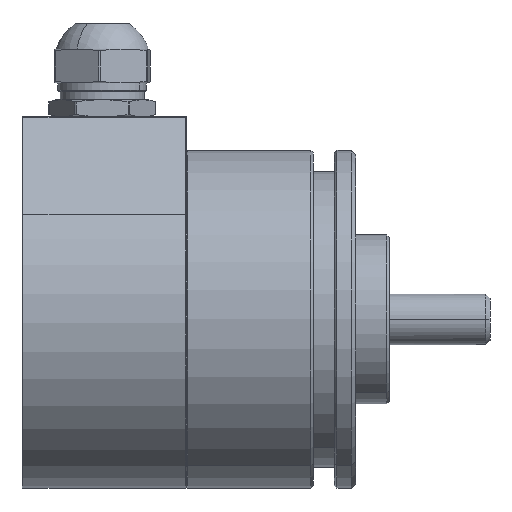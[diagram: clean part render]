
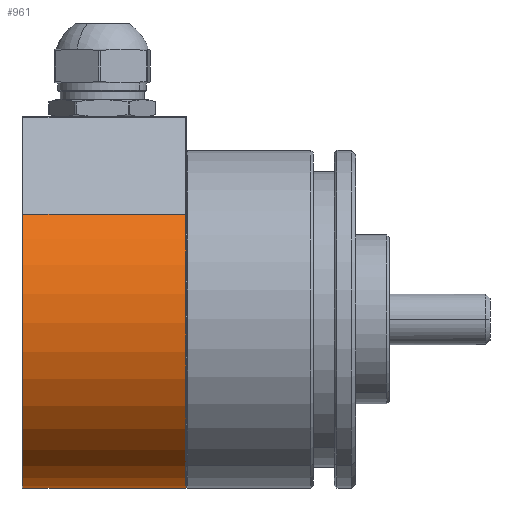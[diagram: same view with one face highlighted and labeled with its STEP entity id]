
A CAD part, left-side view. The second image highlights one B-rep face of the part: STEP entity #961.
In plain terms, the highlighted cylindrical face has radius 20 mm (diameter 40 mm), a partial arc.
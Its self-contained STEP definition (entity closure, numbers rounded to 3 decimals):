
#902 = DIRECTION ( 'NONE',  ( 0., 0., -1. ) ) ;
#961 = ADVANCED_FACE ( 'NONE', ( #8091 ), #3466, .T. ) ;
#1440 = ORIENTED_EDGE ( 'NONE', *, *, #4546, .T. ) ;
#1511 = CIRCLE ( 'NONE', #7691, 20. ) ;
#1624 = EDGE_CURVE ( 'NONE', #2320, #8059, #1511, .T. ) ;
#1759 = CARTESIAN_POINT ( 'NONE',  ( 0., 0., 0. ) ) ;
#1847 = DIRECTION ( 'NONE',  ( 0., 1., 0. ) ) ;
#2304 = AXIS2_PLACEMENT_3D ( 'NONE', #1759, #3991, #902 ) ;
#2320 = VERTEX_POINT ( 'NONE', #6342 ) ;
#2338 = VECTOR ( 'NONE', #1847, 1000. ) ;
#2831 = CARTESIAN_POINT ( 'NONE',  ( -15.675, -33.42, 12.421 ) ) ;
#2988 = EDGE_CURVE ( 'NONE', #3722, #2320, #11119, .T. ) ;
#3466 = CYLINDRICAL_SURFACE ( 'NONE', #2304, 20. ) ;
#3657 = ORIENTED_EDGE ( 'NONE', *, *, #1624, .T. ) ;
#3722 = VERTEX_POINT ( 'NONE', #11089 ) ;
#3991 = DIRECTION ( 'NONE',  ( 0., -1., 0. ) ) ;
#4195 = ORIENTED_EDGE ( 'NONE', *, *, #2988, .T. ) ;
#4371 = CARTESIAN_POINT ( 'NONE',  ( 0., 0.1, 0. ) ) ;
#4546 = EDGE_CURVE ( 'NONE', #9276, #3722, #5441, .T. ) ;
#5154 = VECTOR ( 'NONE', #11873, 1000. ) ;
#5441 = CIRCLE ( 'NONE', #8319, 20. ) ;
#5796 = CARTESIAN_POINT ( 'NONE',  ( 0., 19.4, -20. ) ) ;
#6342 = CARTESIAN_POINT ( 'NONE',  ( -15.675, 19.4, 12.421 ) ) ;
#7185 = DIRECTION ( 'NONE',  ( 0., 1., 0. ) ) ;
#7375 = LINE ( 'NONE', #10039, #5154 ) ;
#7691 = AXIS2_PLACEMENT_3D ( 'NONE', #9615, #8624, #9214 ) ;
#7950 = EDGE_LOOP ( 'NONE', ( #3657, #10649, #1440, #4195 ) ) ;
#8059 = VERTEX_POINT ( 'NONE', #5796 ) ;
#8091 = FACE_OUTER_BOUND ( 'NONE', #7950, .T. ) ;
#8319 = AXIS2_PLACEMENT_3D ( 'NONE', #4371, #7185, #8890 ) ;
#8517 = EDGE_CURVE ( 'NONE', #8059, #9276, #7375, .T. ) ;
#8624 = DIRECTION ( 'NONE',  ( 0., -1., 0. ) ) ;
#8890 = DIRECTION ( 'NONE',  ( 0., 0., 1. ) ) ;
#9214 = DIRECTION ( 'NONE',  ( 0., 0., -1. ) ) ;
#9276 = VERTEX_POINT ( 'NONE', #9763 ) ;
#9615 = CARTESIAN_POINT ( 'NONE',  ( 0., 19.4, 0. ) ) ;
#9763 = CARTESIAN_POINT ( 'NONE',  ( 0., 0.1, -20. ) ) ;
#10039 = CARTESIAN_POINT ( 'NONE',  ( 0., 0., -20. ) ) ;
#10649 = ORIENTED_EDGE ( 'NONE', *, *, #8517, .T. ) ;
#11089 = CARTESIAN_POINT ( 'NONE',  ( -15.675, 0.1, 12.421 ) ) ;
#11119 = LINE ( 'NONE', #2831, #2338 ) ;
#11873 = DIRECTION ( 'NONE',  ( 0., -1., 0. ) ) ;
